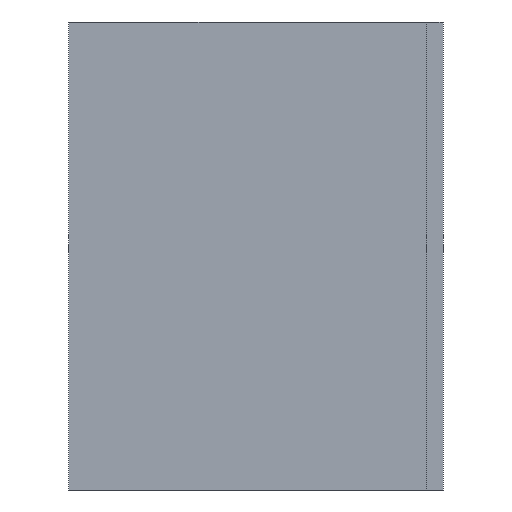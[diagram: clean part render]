
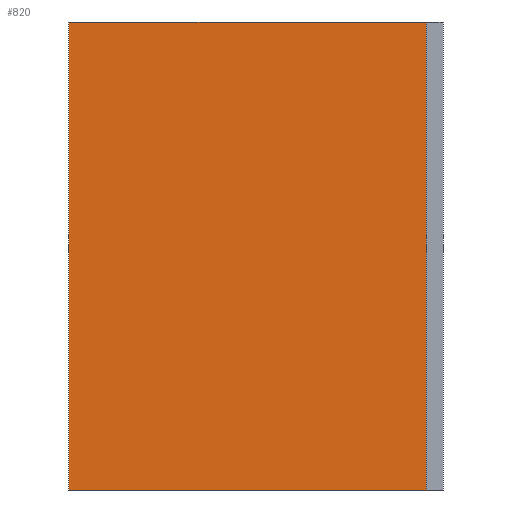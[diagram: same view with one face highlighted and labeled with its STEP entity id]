
A CAD part, left-side view. The second image highlights one B-rep face of the part: STEP entity #820.
In plain terms, the highlighted planar face has unit normal (-1, 0, 0).
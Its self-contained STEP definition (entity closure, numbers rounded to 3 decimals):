
#99 = ORIENTED_EDGE ( 'NONE', *, *, #1431, .F. ) ;
#122 = EDGE_CURVE ( 'NONE', #1383, #1457, #949, .T. ) ;
#131 = EDGE_LOOP ( 'NONE', ( #1339, #99, #1553, #1324 ) ) ;
#338 = CARTESIAN_POINT ( 'NONE',  ( -29., 1.8, 0. ) ) ;
#455 = LINE ( 'NONE', #456, #457 ) ;
#456 = CARTESIAN_POINT ( 'NONE',  ( -29., 1.8, 0. ) ) ;
#457 = VECTOR ( 'NONE', #458, 1000. ) ;
#458 = DIRECTION ( 'NONE',  ( 0., -1., 0. ) ) ;
#568 = LINE ( 'NONE', #569, #570 ) ;
#569 = CARTESIAN_POINT ( 'NONE',  ( -29., 40., 50. ) ) ;
#570 = VECTOR ( 'NONE', #571, 1000. ) ;
#571 = DIRECTION ( 'NONE',  ( 0., 0., -1. ) ) ;
#811 = FACE_OUTER_BOUND ( 'NONE', #131, .T. ) ;
#812 = PLANE ( 'NONE',  #813 ) ;
#813 = AXIS2_PLACEMENT_3D ( 'NONE', #814, #815, #816 ) ;
#814 = CARTESIAN_POINT ( 'NONE',  ( -29., 1.8, 50. ) ) ;
#815 = DIRECTION ( 'NONE',  ( 1., 0., 0. ) ) ;
#816 = DIRECTION ( 'NONE',  ( 0., 0., -1. ) ) ;
#820 = ADVANCED_FACE ( 'NONE', ( #811 ), #812, .F. ) ;
#846 = CARTESIAN_POINT ( 'NONE',  ( -29., 40., 50. ) ) ;
#870 = CARTESIAN_POINT ( 'NONE',  ( -29., 40., 0. ) ) ;
#949 = LINE ( 'NONE', #950, #951 ) ;
#950 = CARTESIAN_POINT ( 'NONE',  ( -29., 1.8, 50. ) ) ;
#951 = VECTOR ( 'NONE', #953, 1000. ) ;
#953 = DIRECTION ( 'NONE',  ( 0., -1., 0. ) ) ;
#987 = LINE ( 'NONE', #989, #990 ) ;
#989 = CARTESIAN_POINT ( 'NONE',  ( -29., 1.8, 50. ) ) ;
#990 = VECTOR ( 'NONE', #991, 1000. ) ;
#991 = DIRECTION ( 'NONE',  ( 0., 0., -1. ) ) ;
#1110 = CARTESIAN_POINT ( 'NONE',  ( -29., 1.8, 50. ) ) ;
#1287 = VERTEX_POINT ( 'NONE', #338 ) ;
#1317 = EDGE_CURVE ( 'NONE', #1394, #1287, #455, .T. ) ;
#1324 = ORIENTED_EDGE ( 'NONE', *, *, #1567, .T. ) ;
#1339 = ORIENTED_EDGE ( 'NONE', *, *, #1317, .T. ) ;
#1383 = VERTEX_POINT ( 'NONE', #846 ) ;
#1394 = VERTEX_POINT ( 'NONE', #870 ) ;
#1431 = EDGE_CURVE ( 'NONE', #1457, #1287, #987, .T. ) ;
#1457 = VERTEX_POINT ( 'NONE', #1110 ) ;
#1553 = ORIENTED_EDGE ( 'NONE', *, *, #122, .F. ) ;
#1567 = EDGE_CURVE ( 'NONE', #1383, #1394, #568, .T. ) ;
